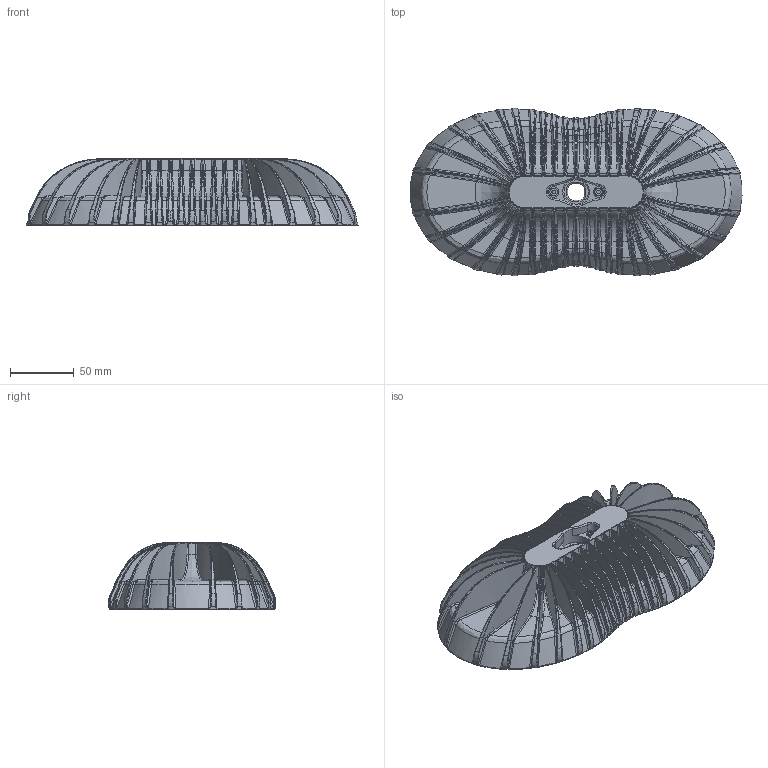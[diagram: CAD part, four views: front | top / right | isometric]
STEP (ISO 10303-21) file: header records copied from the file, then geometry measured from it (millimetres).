
FILE_DESCRIPTION(('STEP AP203'),'2;1');
FILE_NAME('MODULO_PLUSME_BASEDISSIPATORE.stp','2012-07-31T14:58:15',(''),(''),'2008.1.107','THINKDESIGN','');
FILE_SCHEMA(('CONFIG_CONTROL_DESIGN'));
Bounding box: 259.38 x 130.68 x 52 mm (x, y, z)
Volume: 334914.7 mm3; surface area: 163365.3 mm2
Topology: 1 solids, 1 shells, 1798 faces, 4216 edges, 2427 vertices
Faces by surface type: bspline 1466, cylinder 196, plane 136
Full cylindrical faces by diameter (mm): 2 x6, 3 x2, 6 x2, 8 x2, 21 x1
Entity records: 149597 total; most frequent: CARTESIAN_POINT 117489, ORIENTED_EDGE 8410, EDGE_CURVE 4205, DIRECTION 3556, B_SPLINE_CURVE_WITH_KNOTS 2544, VERTEX_POINT 2427, EDGE_LOOP 1818, FACE_OUTER_BOUND 1798
